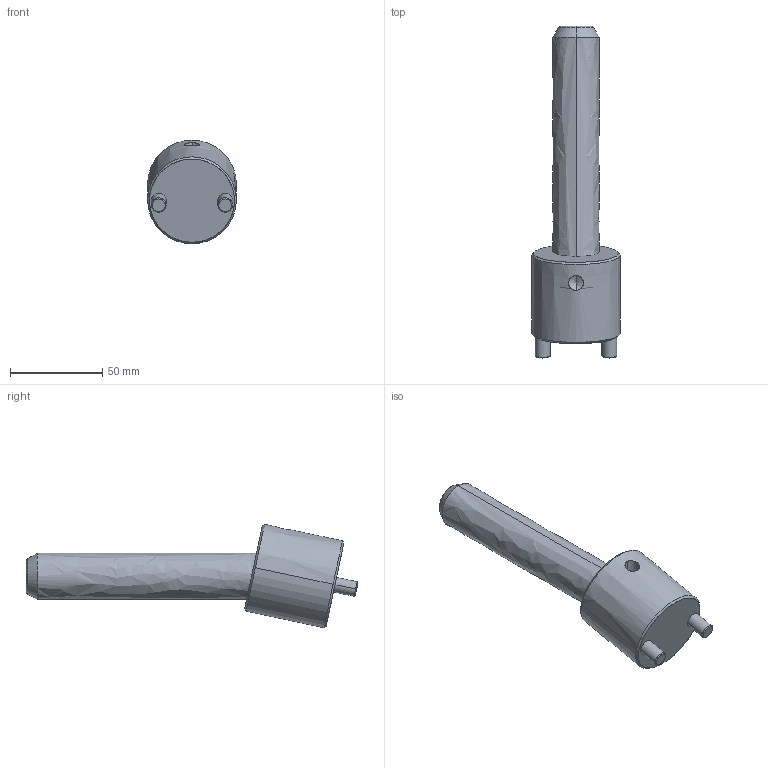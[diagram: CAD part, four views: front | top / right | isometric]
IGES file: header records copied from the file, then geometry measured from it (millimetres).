
Start section: START RECORD GO HERE.
Global section: file name: CI1225125.igs; native system: DASSAULT SYSTEMES CATIA V5 R20 - www.3ds.com; preprocessor: CATIA Version 5 Release 20 ; author: r.borello; organization: CFTORINO; date: 20190621.160739; units: millimetre
Bounding box: 48 x 179.52 x 55.89 mm (x, y, z)
Surface area: 27406 mm2 (no closed solid volume)
Topology: 0 solids, 0 shells, 39 faces, 162 edges, 160 vertices
Faces by surface type: revolution 32, plane 7
